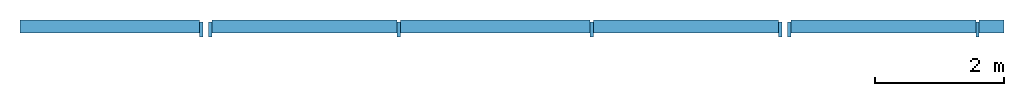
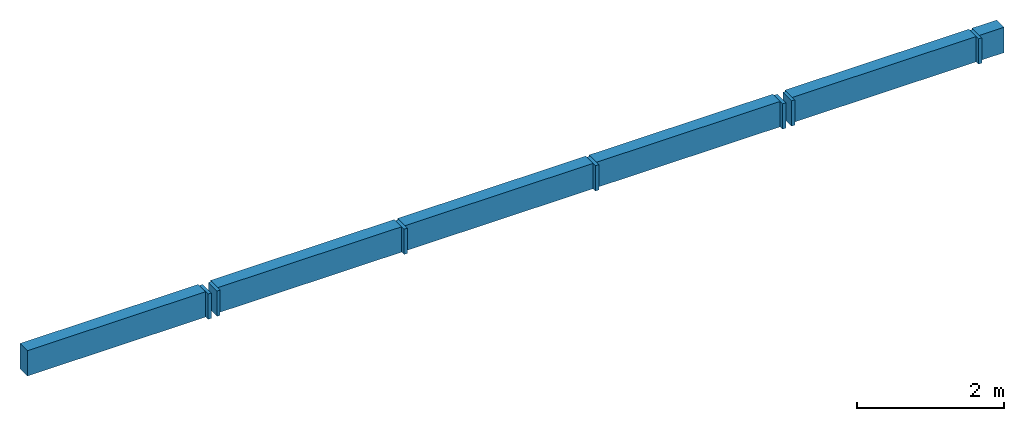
# One storey: 7 members, 6 plates, 3 elements without a shape of their own.
"""IFC2X3 building model written with IfcOpenShell, lengths in millimetres."""

from ifc_helpers import new_model, entity, si_unit, converted_unit, derived_unit, direction, frame, origin_with_axes, place, context, subcontext, project, spatial, faceted_brep, material, layer, layer_set, type_object, element, aggregate, save


model = new_model("IFC2X3")

# Units and contexts
model_context = context("Model", 3, precision=0.01, world=frame((0.0, 4.29681676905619e-09, 0.0)), true_north=direction((4.01073788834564e-13, 1.0)))
plan_context = context("Plan", 3, precision=0.01, world=frame((0.0, 4.29681676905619e-09, 0.0)), true_north=direction((4.01073788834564e-13, 1.0)))
body_context = subcontext(model_context, "Body", "Model", "MODEL_VIEW")
ifc_project = project(units=[converted_unit("PLANEANGLEUNIT", "DEGREE", entity("IfcPositiveLengthMeasure", 0.0174532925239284), si_unit("PLANEANGLEUNIT", "RADIAN"), dimensions=[0, 0, 0, 0, 0, 0, 0]), si_unit("AREAUNIT", "SQUARE_METRE"), si_unit("LENGTHUNIT", "METRE", prefix="MILLI"), si_unit("MASSUNIT", "GRAM", prefix="KILO"), si_unit("POWERUNIT", "WATT"), si_unit("PRESSUREUNIT", "PASCAL"), si_unit("FORCEUNIT", "NEWTON", prefix="KILO"), si_unit("ELECTRICVOLTAGEUNIT", "VOLT"), si_unit("ELECTRICCURRENTUNIT", "AMPERE"), si_unit("THERMODYNAMICTEMPERATUREUNIT", "DEGREE_CELSIUS"), si_unit("TIMEUNIT", "SECOND"), si_unit("VOLUMEUNIT", "CUBIC_METRE"), derived_unit("LINEARVELOCITYUNIT", [(si_unit("LENGTHUNIT", "METRE"), 1), (si_unit("TIMEUNIT", "SECOND"), -1)]), derived_unit("VOLUMETRICFLOWRATEUNIT", [(si_unit("VOLUMEUNIT", "CUBIC_METRE"), 1), (si_unit("TIMEUNIT", "SECOND"), -1)]), derived_unit("THERMALTRANSMITTANCEUNIT", [(si_unit("POWERUNIT", "WATT"), 1), (si_unit("THERMODYNAMICTEMPERATUREUNIT", "KELVIN"), -1), (si_unit("AREAUNIT", "SQUARE_METRE"), -1)]), derived_unit("SOUNDPRESSUREUNIT", [(si_unit("PRESSUREUNIT", "PASCAL"), 1)])], contexts=[model_context, plan_context])

# Site, building, storey
site_placement = place(None, origin_with_axes())
site = spatial("IfcSite", under=ifc_project, at=site_placement, Name="ENGM", CompositionType="ELEMENT")
building_placement = place(site_placement, origin_with_axes())
building = spatial("IfcBuilding", under=site, at=building_placement, Name="TH", CompositionType="ELEMENT")
storey_placement = place(building_placement, frame((0.0, 0.0, 215699.999999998), z_axis=(0.0, 0.0, 1.0), x_axis=(1.0, 0.0, 0.0)))
storey = spatial("IfcBuildingStorey", under=building, at=storey_placement, Name="Nivå G", CompositionType="ELEMENT", Elevation=215699.999999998)

# Curtain wall, member
curtain_wall_type = type_object("IfcCurtainWallType", Name="Curtain Wall:A232 - UGV - Glass 30 mm", PredefinedType="NOTDEFINED")
curtain_wall_1_placement = place(storey_placement, frame((0.0, 0.0, -215699.999999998), z_axis=(0.0, 0.0, 1.0), x_axis=(1.0, 0.0, 0.0)))
curtain_wall_1 = element("IfcCurtainWall", 1, at=curtain_wall_1_placement, inside=storey, type_object=curtain_wall_type, Name="Curtain Wall:A232 - UGV - Glass 30 mm", ObjectType="Curtain Wall:A232 - UGV - Glass 30 mm")
ifc_material_1 = material(Name="T2_Metal_Aluminium")
member_type_1 = type_object("IfcMemberType", Name="Rectangular Mullion:A233 - Sprosse - 165(post)+70(dekkprofil) x 50 mm", PredefinedType="MULLION", material=ifc_material_1)
member_1_placement = place(curtain_wall_1_placement, frame((898045.27499999, 485000.0, 214955.0), z_axis=(0.0, 0.0, 1.0), x_axis=(-1.0, 0.0, 0.0)))
member_1 = element("IfcMember", 2, at=member_1_placement, type_object=member_type_1, Name="Rectangular Mullion:A233 - Sprosse - 165(post)+70(dekkprofil) x 50 mm", ObjectType="Rectangular Mullion:A233 - Sprosse - 165(post)+70(dekkprofil) x 50 mm", context=body_context, shape_type="Brep", body=[
    faceted_brep([(0.0, 165.0, -1055.0), (-50.0, 165.0, -1055.0), (-50.0, 165.0, -1475.0), (0.0, 165.0, -1475.0), (-50.0, -69.9999999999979, -1055.0), (-50.0, -69.9999999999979, -1475.0), (0.0, -69.9999999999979, -1055.0), (0.0, -69.9999999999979, -1475.0)], [[[0, 1, 2, 3]], [[1, 4, 5, 2]], [[4, 6, 7, 5]], [[6, 0, 3, 7]], [[3, 2, 5, 7]], [[6, 4, 1, 0]]], orient=[[False], [False], [False], [False], [False], [False]]),
])

curtain_wall_2_placement = place(storey_placement, frame((0.0, 0.0, -215699.999999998), z_axis=(0.0, 0.0, 1.0), x_axis=(1.0, 0.0, 0.0)))
curtain_wall_2 = element("IfcCurtainWall", 3, at=curtain_wall_2_placement, inside=storey, type_object=curtain_wall_type, Name="Curtain Wall:A232 - UGV - Glass 30 mm", ObjectType="Curtain Wall:A232 - UGV - Glass 30 mm")
member_2_placement = place(curtain_wall_2_placement, frame((907045.27499999, 485000.0, 214955.0), z_axis=(0.0, 0.0, 1.0), x_axis=(-1.0, 0.0, 0.0)))
member_2 = element("IfcMember", 4, at=member_2_placement, type_object=member_type_1, Name="Rectangular Mullion:A233 - Sprosse - 165(post)+70(dekkprofil) x 50 mm", ObjectType="Rectangular Mullion:A233 - Sprosse - 165(post)+70(dekkprofil) x 50 mm", context=body_context, shape_type="Brep", body=[
    faceted_brep([(0.0, 165.0, -1055.0), (-50.0, 165.0, -1055.0), (-50.0, 165.0, -1475.0), (0.0, 165.0, -1475.0), (-50.0, -69.9999999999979, -1055.0), (-50.0, -69.9999999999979, -1475.0), (0.0, -69.9999999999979, -1055.0), (0.0, -69.9999999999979, -1475.0)], [[[0, 1, 2, 3]], [[1, 4, 5, 2]], [[4, 6, 7, 5]], [[6, 0, 3, 7]], [[3, 2, 5, 7]], [[6, 4, 1, 0]]], orient=[[False], [False], [False], [False], [False], [False]]),
])

curtain_wall_3_placement = place(storey_placement, frame((0.0, 0.0, -215699.999999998), z_axis=(0.0, 0.0, 1.0), x_axis=(1.0, 0.0, 0.0)))
curtain_wall_3 = element("IfcCurtainWall", 5, at=curtain_wall_3_placement, inside=storey, type_object=curtain_wall_type, Name="Curtain Wall:A232 - UGV - Glass 30 mm", ObjectType="Curtain Wall:A232 - UGV - Glass 30 mm")
member_type_2 = type_object("IfcMemberType", Name="Rectangular Mullion:A233 - Sprosse - 165(post)+70(dekkprofil) x 50 mm", PredefinedType="MULLION", material=ifc_material_1)
member_3_placement = place(curtain_wall_3_placement, frame((897955.27499999, 484999.999999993, 213479.999999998), z_axis=(0.0, 0.0, -1.0), x_axis=(1.0, 0.0, 0.0)))
member_3 = element("IfcMember", 6, at=member_3_placement, type_object=member_type_2, Name="Rectangular Mullion:A233 - Sprosse - 165(post)+70(dekkprofil) x 50 mm", ObjectType="Rectangular Mullion:A233 - Sprosse - 165(post)+70(dekkprofil) x 50 mm", context=body_context, shape_type="Brep", body=[
    faceted_brep([(0.0, 165.0, -420.000000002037), (0.0, -69.9999999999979, -420.000000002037), (0.0, -69.9999999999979, -5.91171556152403e-12), (0.0, 165.0, -5.91171556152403e-12), (-50.0, 165.0, -420.000000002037), (-50.0, 165.0, -5.91171556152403e-12), (-50.0, -69.9999999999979, -420.000000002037), (-50.0, -69.9999999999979, -5.91171556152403e-12)], [[[0, 1, 2, 3]], [[4, 0, 3, 5]], [[6, 4, 5, 7]], [[1, 6, 7, 2]], [[3, 2, 7, 5]], [[4, 6, 1, 0]]], orient=[[False], [False], [False], [False], [False], [False]]),
])

# Member
member_4_placement = place(curtain_wall_1_placement, frame((906955.27499999, 484999.999999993, 213479.999999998), z_axis=(0.0, 0.0, -1.0), x_axis=(1.0, 0.0, 0.0)))
member_4 = element("IfcMember", 7, at=member_4_placement, type_object=member_type_2, Name="Rectangular Mullion:A233 - Sprosse - 165(post)+70(dekkprofil) x 50 mm", ObjectType="Rectangular Mullion:A233 - Sprosse - 165(post)+70(dekkprofil) x 50 mm", context=body_context, shape_type="Brep", body=[
    faceted_brep([(0.0, 165.0, -420.000000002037), (0.0, -69.9999999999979, -420.000000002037), (0.0, -69.9999999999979, -5.91171556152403e-12), (0.0, 165.0, -5.91171556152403e-12), (-50.0, 165.0, -420.000000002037), (-50.0, 165.0, -5.91171556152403e-12), (-50.0, -69.9999999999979, -420.000000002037), (-50.0, -69.9999999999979, -5.91171556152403e-12)], [[[0, 1, 2, 3]], [[4, 0, 3, 5]], [[6, 4, 5, 7]], [[1, 6, 7, 2]], [[3, 2, 7, 5]], [[4, 6, 1, 0]]], orient=[[False], [False], [False], [False], [False], [False]]),
])

member_type_3 = type_object("IfcMemberType", Name="Rectangular Mullion:A233 - Sprosse - 165(post)+70(dekkprofil) x 50 mm", PredefinedType="MULLION", material=ifc_material_1)
member_5_placement = place(curtain_wall_1_placement, frame((904000.27499999, 484999.999999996, 213479.999999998), z_axis=(0.0, 0.0, -1.0), x_axis=(1.0, 0.0, 0.0)))
member_5 = element("IfcMember", 8, at=member_5_placement, type_object=member_type_3, Name="Rectangular Mullion:A233 - Sprosse - 165(post)+70(dekkprofil) x 50 mm", ObjectType="Rectangular Mullion:A233 - Sprosse - 165(post)+70(dekkprofil) x 50 mm", context=body_context, shape_type="Brep", body=[
    faceted_brep([(25.0, 165.0, -420.000000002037), (25.0, -69.9999999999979, -420.000000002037), (25.0, -69.9999999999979, -5.91171556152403e-12), (25.0, 165.0, -5.91171556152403e-12), (-25.0, 165.0, -420.000000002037), (-25.0, 165.0, -5.91171556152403e-12), (-25.0, -69.9999999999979, -420.000000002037), (-25.0, -69.9999999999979, -5.91171556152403e-12)], [[[0, 1, 2, 3]], [[4, 0, 3, 5]], [[6, 4, 5, 7]], [[1, 6, 7, 2]], [[3, 2, 7, 5]], [[4, 6, 1, 0]]], orient=[[False], [False], [False], [False], [False], [False]]),
])

member_6_placement = place(curtain_wall_1_placement, frame((901000.27499999, 484999.999999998, 213479.999999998), z_axis=(0.0, 0.0, -1.0), x_axis=(1.0, 0.0, 0.0)))
member_6 = element("IfcMember", 9, at=member_6_placement, type_object=member_type_3, Name="Rectangular Mullion:A233 - Sprosse - 165(post)+70(dekkprofil) x 50 mm", ObjectType="Rectangular Mullion:A233 - Sprosse - 165(post)+70(dekkprofil) x 50 mm", context=body_context, shape_type="Brep", body=[
    faceted_brep([(25.0, 165.0, -420.000000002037), (25.0, -69.9999999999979, -420.000000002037), (25.0, -69.9999999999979, -5.91171556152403e-12), (25.0, 165.0, -5.91171556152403e-12), (-25.0, 165.0, -420.000000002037), (-25.0, 165.0, -5.91171556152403e-12), (-25.0, -69.9999999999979, -420.000000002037), (-25.0, -69.9999999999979, -5.91171556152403e-12)], [[[0, 1, 2, 3]], [[4, 0, 3, 5]], [[6, 4, 5, 7]], [[1, 6, 7, 2]], [[3, 2, 7, 5]], [[4, 6, 1, 0]]], orient=[[False], [False], [False], [False], [False], [False]]),
])

member_7_placement = place(curtain_wall_2_placement, frame((910000.27499999, 484999.999999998, 213479.999999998), z_axis=(0.0, 0.0, -1.0), x_axis=(1.0, 0.0, 0.0)))
member_7 = element("IfcMember", 10, at=member_7_placement, type_object=member_type_3, Name="Rectangular Mullion:A233 - Sprosse - 165(post)+70(dekkprofil) x 50 mm", ObjectType="Rectangular Mullion:A233 - Sprosse - 165(post)+70(dekkprofil) x 50 mm", context=body_context, shape_type="Brep", body=[
    faceted_brep([(25.0, 165.0, -420.000000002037), (25.0, -69.9999999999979, -420.000000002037), (25.0, -69.9999999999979, -5.91171556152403e-12), (25.0, 165.0, -5.91171556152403e-12), (-25.0, 165.0, -420.000000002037), (-25.0, 165.0, -5.91171556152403e-12), (-25.0, -69.9999999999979, -420.000000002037), (-25.0, -69.9999999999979, -5.91171556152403e-12)], [[[0, 1, 2, 3]], [[4, 0, 3, 5]], [[6, 4, 5, 7]], [[1, 6, 7, 2]], [[3, 2, 7, 5]], [[4, 6, 1, 0]]], orient=[[False], [False], [False], [False], [False], [False]]),
])

# Plate
ifc_material_2 = material(Name="_NSW Aluminium")
ifc_layer_1 = layer(ifc_material_2, 10.0)
ifc_material_3 = material(Name="_NSW Luftspalte")
ifc_layer_2 = layer(ifc_material_3, 25.0)
ifc_layer_3 = layer(ifc_material_3, 45.0)
ifc_material_4 = material(Name="_NSW Isolasjon")
ifc_layer_4 = layer(ifc_material_4, 115.0)
ifc_layer_5 = layer(ifc_material_2, 5.0)
ifc_layer_set = layer_set([ifc_layer_1, ifc_layer_2, ifc_layer_3, ifc_layer_4, ifc_layer_5], Name="Basic Wall:A234 - Blindfelt (eksisterende pir)")
plate_type = type_object("IfcPlateType", Name="Basic Wall:A234 - Blindfelt (eksisterende pir)", PredefinedType="CURTAIN_PANEL", material=ifc_layer_set)
plate_1_placement = place(curtain_wall_3_placement, frame((895025.27499999, 484999.999999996, 213479.999999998), z_axis=(0.0, 0.0, 1.0), x_axis=(1.0, 0.0, 0.0)))
plate_1 = element("IfcPlate", 11, at=plate_1_placement, type_object=plate_type, Name="Basic Wall:A234 - Blindfelt (eksisterende pir)", ObjectType="Basic Wall:A234 - Blindfelt (eksisterende pir)", context=body_context, shape_type="Brep", body=[
    faceted_brep([(86.6311685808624, -100.000000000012, 0.0), (86.6311685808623, -100.000000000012, 420.000000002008), (2879.99999998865, -100.000000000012, 420.000000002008), (2879.99999998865, -100.000000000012, 0.0), (2879.99999998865, 100.000000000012, 420.000000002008), (2879.99999998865, 100.000000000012, 0.0), (86.6311685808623, 100.000000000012, 420.000000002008), (86.6311685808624, 100.000000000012, 0.0)], [[[0, 1, 2, 3]], [[2, 4, 5, 3]], [[4, 6, 7, 5]], [[7, 0, 3, 5]], [[1, 0, 7, 6]], [[6, 4, 2, 1]]], orient=[[False], [False], [False], [False], [False], [False]]),
])

aggregate(curtain_wall_3, [member_3, plate_1])

plate_2_placement = place(curtain_wall_1_placement, frame((898095.27499999, 485000.0, 213479.999999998), z_axis=(0.0, 0.0, 1.0), x_axis=(1.0, 0.0, 0.0)))
plate_2 = element("IfcPlate", 12, at=plate_2_placement, type_object=plate_type, Name="Basic Wall:A234 - Blindfelt (eksisterende pir)", ObjectType="Basic Wall:A234 - Blindfelt (eksisterende pir)", context=body_context, shape_type="Brep", body=[
    faceted_brep([(1.1485326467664e-08, -100.000000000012, 420.000000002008), (2879.99999998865, -100.000000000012, 420.000000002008), (2879.99999998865, -100.000000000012, 0.0), (1.1485326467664e-08, -100.000000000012, 0.0), (2879.99999998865, 100.000000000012, 420.000000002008), (2879.99999998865, 100.000000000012, 0.0), (1.1485326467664e-08, 100.000000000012, 420.000000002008), (1.1485326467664e-08, 100.000000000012, 0.0)], [[[0, 1, 2, 3]], [[1, 4, 5, 2]], [[4, 6, 7, 5]], [[6, 0, 3, 7]], [[3, 2, 5, 7]], [[6, 4, 1, 0]]], orient=[[False], [False], [False], [False], [False], [False]]),
])

plate_3_placement = place(curtain_wall_1_placement, frame((901025.27499999, 484999.999999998, 213479.999999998), z_axis=(0.0, 0.0, 1.0), x_axis=(1.0, 0.0, 0.0)))
plate_3 = element("IfcPlate", 13, at=plate_3_placement, type_object=plate_type, Name="Basic Wall:A234 - Blindfelt (eksisterende pir)", ObjectType="Basic Wall:A234 - Blindfelt (eksisterende pir)", context=body_context, shape_type="Brep", body=[
    faceted_brep([(-6.32098817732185e-11, -100.000000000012, 420.000000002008), (2949.99999999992, -100.000000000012, 420.000000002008), (2949.99999999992, -100.000000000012, 0.0), (-6.32098817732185e-11, -100.000000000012, 0.0), (2949.99999999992, 100.000000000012, 420.000000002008), (2949.99999999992, 100.000000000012, 0.0), (-6.32098817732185e-11, 100.000000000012, 420.000000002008), (-6.32098817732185e-11, 100.000000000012, 0.0)], [[[0, 1, 2, 3]], [[1, 4, 5, 2]], [[4, 6, 7, 5]], [[6, 0, 3, 7]], [[3, 2, 5, 7]], [[6, 4, 1, 0]]], orient=[[False], [False], [False], [False], [False], [False]]),
])

plate_4_placement = place(curtain_wall_1_placement, frame((904025.27499999, 484999.999999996, 213479.999999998), z_axis=(0.0, 0.0, 1.0), x_axis=(1.0, 0.0, 0.0)))
plate_4 = element("IfcPlate", 14, at=plate_4_placement, type_object=plate_type, Name="Basic Wall:A234 - Blindfelt (eksisterende pir)", ObjectType="Basic Wall:A234 - Blindfelt (eksisterende pir)", context=body_context, shape_type="Brep", body=[
    faceted_brep([(1.1485326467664e-08, -100.000000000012, 420.000000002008), (2879.99999998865, -100.000000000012, 420.000000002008), (2879.99999998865, -100.000000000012, 0.0), (1.1485326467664e-08, -100.000000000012, 0.0), (2879.99999998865, 100.000000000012, 420.000000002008), (2879.99999998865, 100.000000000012, 0.0), (1.1485326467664e-08, 100.000000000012, 420.000000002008), (1.1485326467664e-08, 100.000000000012, 0.0)], [[[0, 1, 2, 3]], [[1, 4, 5, 2]], [[4, 6, 7, 5]], [[6, 0, 3, 7]], [[3, 2, 5, 7]], [[6, 4, 1, 0]]], orient=[[False], [False], [False], [False], [False], [False]]),
])

aggregate(curtain_wall_1, [member_5, member_6, member_1, member_4, plate_2, plate_3, plate_4])

plate_5_placement = place(curtain_wall_2_placement, frame((907095.27499999, 485000.0, 213479.999999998), z_axis=(0.0, 0.0, 1.0), x_axis=(1.0, 0.0, 0.0)))
plate_5 = element("IfcPlate", 15, at=plate_5_placement, type_object=plate_type, Name="Basic Wall:A234 - Blindfelt (eksisterende pir)", ObjectType="Basic Wall:A234 - Blindfelt (eksisterende pir)", context=body_context, shape_type="Brep", body=[
    faceted_brep([(1.1485326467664e-08, -100.000000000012, 420.000000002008), (2879.99999998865, -100.000000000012, 420.000000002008), (2879.99999998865, -100.000000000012, 0.0), (1.1485326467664e-08, -100.000000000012, 0.0), (2879.99999998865, 100.000000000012, 420.000000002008), (2879.99999998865, 100.000000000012, 0.0), (1.1485326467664e-08, 100.000000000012, 420.000000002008), (1.1485326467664e-08, 100.000000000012, 0.0)], [[[0, 1, 2, 3]], [[1, 4, 5, 2]], [[4, 6, 7, 5]], [[6, 0, 3, 7]], [[3, 2, 5, 7]], [[6, 4, 1, 0]]], orient=[[False], [False], [False], [False], [False], [False]]),
])

plate_6_placement = place(curtain_wall_2_placement, frame((910025.27499999, 484999.999999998, 213479.999999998), z_axis=(0.0, 0.0, 1.0), x_axis=(1.0, 0.0, 0.0)))
plate_6 = element("IfcPlate", 16, at=plate_6_placement, type_object=plate_type, Name="Basic Wall:A234 - Blindfelt (eksisterende pir)", ObjectType="Basic Wall:A234 - Blindfelt (eksisterende pir)", context=body_context, shape_type="Brep", body=[
    faceted_brep([(-6.32098817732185e-11, -100.000000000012, 420.000000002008), (385.309841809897, -100.000000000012, 420.000000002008), (385.309841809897, -100.000000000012, 0.0), (-6.32098817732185e-11, -100.000000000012, 0.0), (385.309841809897, 100.000000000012, 0.0), (385.309841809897, 100.000000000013, 420.000000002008), (-6.32098817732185e-11, 100.000000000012, 420.000000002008), (-6.32098817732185e-11, 100.000000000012, 0.0)], [[[0, 1, 2, 3]], [[4, 5, 6, 7]], [[6, 0, 3, 7]], [[2, 4, 7, 3]], [[5, 4, 2, 1]], [[1, 0, 6, 5]]], orient=[[False], [False], [False], [False], [False], [False]]),
])

aggregate(curtain_wall_2, [member_7, member_2, plate_5, plate_6])

save(model, "model.ifc")
